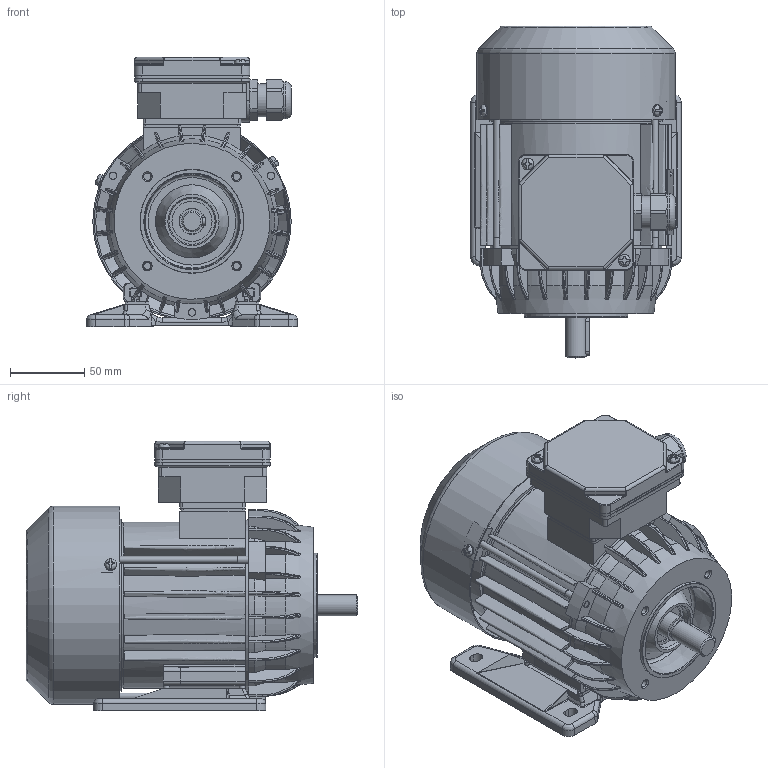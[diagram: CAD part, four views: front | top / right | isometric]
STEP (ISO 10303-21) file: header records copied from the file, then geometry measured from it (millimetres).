
FILE_DESCRIPTION( ( 'Unknown' ), '1' );
FILE_NAME( 'G:/Poczta Tk-1/STP/w.m.71/Sh71/SLh71-.A2.stp', 'Unknown', ( 'K. Szlosek' ), ( 'BESEL S.A.' ), 'PSStep 17.0.49', 'Unknown', ' ' );
FILE_SCHEMA( ( 'AUTOMOTIVE_DESIGN { 1 0 10303 214 1 1 1 1 }' ) );
Length unit declared in the file: millimetre
Products named in the file (30): skrznka zaciskowa trójfazowa ; K4-2820 Uszczelka nr 2 Sh71,80; Dławnica M20x1,5; K2-0859 Podstawa skrzynki 6-cio zaciskowej; K2-0860 Pokrywka skrzynki zaciskowej; Assem1; K3-5958 Tarcza łożyskowa P Sh71 (dla dł. A); Wpust A5x5x25; Wkręt samogwintujący M4x8; Wkręt samogwintujący M4x16; K1-1194 Kadłub z zamkami Sh71-.B; K4-4122 Osłona przewietrznika Sh71-.A; K3-3984 Przewietrznik Sh71; K4-2320 Uszczelka nr 1 Sh71,80; K3-6688 Wał Standard Sh71-A; Nitokołek A 2x6; Łożysko 6203; Śruba ściągająca E_M5x110; Tabliczka znamionowa 32x44; K1-1245 Tarcza kołnierzowa B14_2 w.m. 71; K1-0448 Łapa Sh71-.. 
Assembly tree (45 placements, depth 3):
  Assem1
    K3-5958 Tarcza łożyskowa P Sh71 (dla dł. A)
    Wpust A5x5x25
    Wkręt samogwintujący M4x8  x3
    Wkręt samogwintujący M4x16  x2
    K1-1194 Kadłub z zamkami Sh71-.B
    K4-4122 Osłona przewietrznika Sh71-.A
    K3-3984 Przewietrznik Sh71
    K4-2320 Uszczelka nr 1 Sh71,80
    K3-6688 Wał Standard Sh71-A
    Nitokołek A 2x6  x2
    Łożysko 6203  x2
    Łożysko 6203  x2
    Łożysko 6203  x2
    Łożysko 6203  x2
    Łożysko 6203  x2
    Łożysko 6203  x2
    Łożysko 6203  x2
    Łożysko 6203  x2
    Łożysko 6203  x2
    Łożysko 6203  x2
    Śruba ściągająca E_M5x110  x3
    Tabliczka znamionowa 32x44
    K1-1245 Tarcza kołnierzowa B14_2 w.m. 71
    K1-0448 Łapa Sh71-.. 
    skrznka zaciskowa trójfazowa 
      K4-2820 Uszczelka nr 2 Sh71,80
      Dławnica M20x1,5
      K2-0859 Podstawa skrzynki 6-cio zaciskowej
      K2-0860 Pokrywka skrzynki zaciskowej
Bounding box: 141.93 x 223.5 x 181.5 mm (x, y, z)
Volume: 659655.8 mm3; surface area: 424898.3 mm2
Topology: 44 solids, 60 shells, 2212 faces, 6132 edges, 4007 vertices
Faces by surface type: plane 1017, cylinder 700, bspline 192, cone 158, torus 109, sphere 36
Full cylindrical faces by diameter (mm): 2 x2, 2.4 x2, 3.7 x7, 3.8 x4, 4 x5, 4.5 x1, 4.6 x3, 4.8 x4, 4.917 x4, 5 x10, 5.5 x3, 5.8 x4, 7 x1, 8 x9, 13.6 x1, 14 x1, 15.9 x1, 16.1 x1, 16.5 x1, 16.6 x2, 17 x4, 17.4 x2, 18.376 x1, 18.38 x1, 20 x1, 22 x2, 22.3 x1, 22.5 x1, 22.7 x1, 23 x2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
Entity records: 103547 total; most frequent: CARTESIAN_POINT 41128, ORIENTED_EDGE 10820, DIRECTION 10111, EDGE_CURVE 5410, AXIS2_PLACEMENT_3D 3756, VERTEX_POINT 3674, LINE 2599, VECTOR 2599
